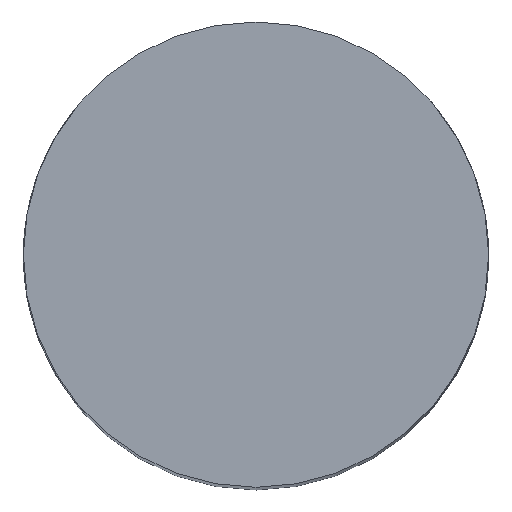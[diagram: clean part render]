
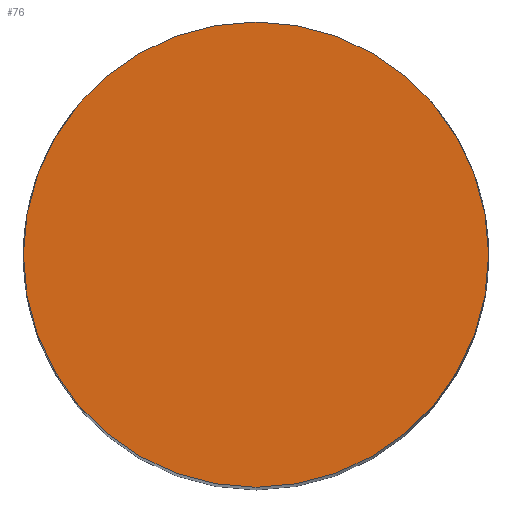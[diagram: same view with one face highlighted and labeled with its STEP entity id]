
A CAD part, top view. The second image highlights one B-rep face of the part: STEP entity #76.
In plain terms, the highlighted planar face has unit normal (0, 0, 1).
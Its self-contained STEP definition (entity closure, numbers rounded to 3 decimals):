
#69=PLANE('',#523);
#76=ADVANCED_FACE('',(#106),#69,.T.);
#106=FACE_OUTER_BOUND('',#145,.F.);
#145=EDGE_LOOP('',(#195,#196));
#195=ORIENTED_EDGE('',*,*,#397,.F.);
#196=ORIENTED_EDGE('',*,*,#393,.F.);
#363=CIRCLE('',#505,4.5);
#365=CIRCLE('',#507,4.5);
#393=EDGE_CURVE('',#481,#480,#363,.T.);
#397=EDGE_CURVE('',#480,#481,#365,.T.);
#480=VERTEX_POINT('',#728);
#481=VERTEX_POINT('',#729);
#505=AXIS2_PLACEMENT_3D('',#771,#569,#570);
#507=AXIS2_PLACEMENT_3D('',#775,#575,#576);
#523=AXIS2_PLACEMENT_3D('',#854,#615,#616);
#569=DIRECTION('',(0.,0.,1.));
#570=DIRECTION('',(0.,-1.,0.));
#575=DIRECTION('',(0.,0.,1.));
#576=DIRECTION('',(0.,1.,0.));
#615=DIRECTION('',(0.,0.,1.));
#616=DIRECTION('',(1.,0.,0.));
#728=CARTESIAN_POINT('',(-26.868,746.857,289.61));
#729=CARTESIAN_POINT('',(-26.868,737.857,289.61));
#771=CARTESIAN_POINT('',(-26.868,742.357,289.61));
#775=CARTESIAN_POINT('',(-26.868,742.357,289.61));
#854=CARTESIAN_POINT('',(-31.458,737.767,289.61));
